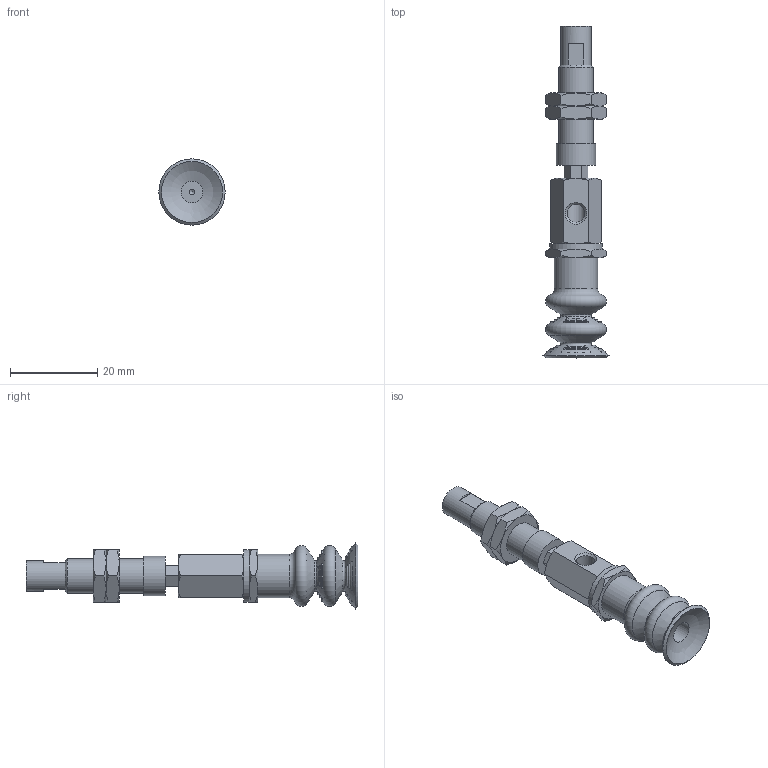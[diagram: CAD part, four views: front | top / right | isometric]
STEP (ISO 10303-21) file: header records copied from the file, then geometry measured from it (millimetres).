
FILE_DESCRIPTION(('STEP AP203'),'1');
FILE_NAME('.stp','2025-04-04T00:58:46',(' '),(' '),'Spatial InterOp 3D',' ',' ');
FILE_SCHEMA(('CONFIG_CONTROL_DESIGN'));
Length unit declared in the file: millimetre
Products named in the file (7): BNABPCYH-15-3-※; Adapter_napc-15-T; Connector_h-15-3; Nut napc_h-15-3; NAPCTH-15-3-FBODY; NAPCTH-15-3-MBODY; BPCG-15-※
Assembly tree (7 placements, depth 2):
  BNABPCYH-15-3-※
    Adapter_napc-15-T
    Connector_h-15-3
    Nut napc_h-15-3  x2
    NAPCTH-15-3-FBODY
    NAPCTH-15-3-MBODY
    BPCG-15-※
Bounding box: 15.2 x 76.2 x 15.2 mm (x, y, z)
Volume: 5462.9 mm3; surface area: 5652.4 mm2
Topology: 7 solids, 7 shells, 247 faces, 730 edges, 470 vertices
Faces by surface type: plane 70, cone 68, sphere 58, torus 34, cylinder 17
Full cylindrical faces by diameter (mm): 1.25 x1, 4.134 x3, 5 x6, 7 x1, 7.188 x2, 8 x1, 9 x1, 10 x1, 12 x1
Entity records: 7099 total; most frequent: CARTESIAN_POINT 1992, DIRECTION 1028, ORIENTED_EDGE 894, AXIS2_PLACEMENT_3D 473, EDGE_CURVE 447, VERTEX_POINT 312, EDGE_LOOP 310, FACE_OUTER_BOUND 248
